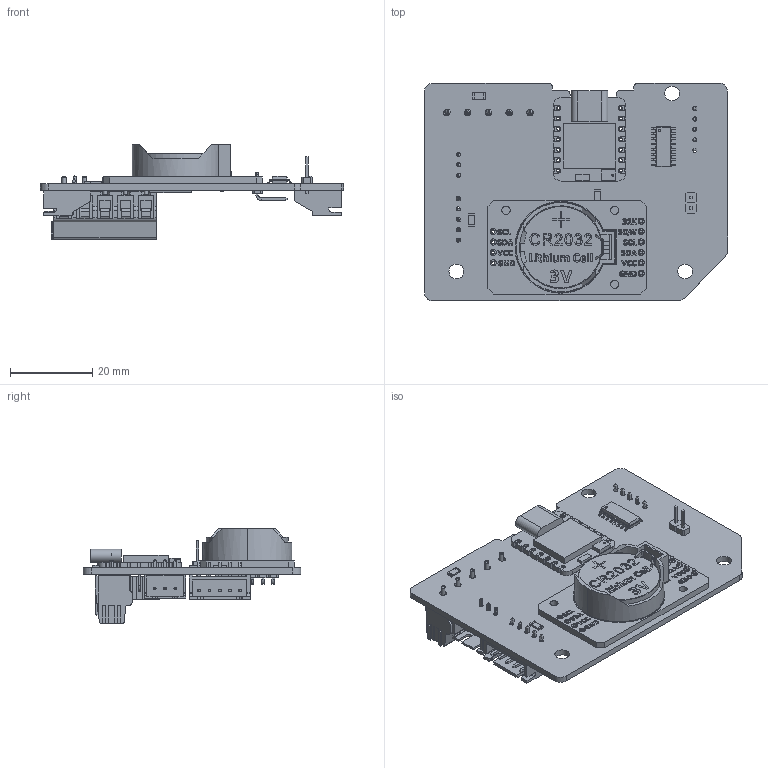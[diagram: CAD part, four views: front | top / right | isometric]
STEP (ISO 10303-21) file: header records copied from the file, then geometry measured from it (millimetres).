
FILE_DESCRIPTION(('KiCad electronic assembly'),'2;1');
FILE_NAME('TIME-BOARD.step','2026-06-01T11:04:11',('Pcbnew'),('Kicad'), 'Open CASCADE STEP processor 7.9','KiCad to STEP converter','Unknown' );
FILE_SCHEMA(('AUTOMOTIVE_DESIGN { 1 0 10303 214 1 1 1 1 }'));
Length unit declared in the file: millimetre
Products named in the file (41): TIME-BOARD 1; SOIC-16_3.9x9.9mm_P1.27mm; Resistor-1206; Ceramic; Contacts; Contacts (Mirror #1); Overcoat; PinHeader-01x02_P2.54mm_Vertical_THT; TIME-BOARD 1.3.1; TIME-BOARD 1.3.2; DS3231 RTC; Default; User Library-JST-XH-2_5mm-3; Seeed_XIAO-nRF52840_Sense; SoC_nRF_Sense; Mic_nRF_Sense; Antenna_nRF_Sense; XIAO_Generic; Board; USB; Contact; Contact Clones; Body007; Body008; Body009; Body010; Body011; Body012; Body013; Body014; Body015; Body016; Body017; Body018; Body019; JST 5 pin - S5B-XH-A-1-LF--SN---3DModel-STEP-269445; SxB-XH-Axxxxx_5; pin^SxB-XH-A-1(LF)(SN)_bent; pin^SxB-XH-A-1(LF)(SN); screw terminal - 5 pins-1935190--3DModel-STEP-510211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
Assembly tree (46 placements, depth 5):
  TIME-BOARD 1
    SOIC-16_3.9x9.9mm_P1.27mm
    Resistor-1206  x3
      Ceramic
      Contacts
      Contacts (Mirror #1)
      Overcoat
    PinHeader-01x02_P2.54mm_Vertical_THT
      TIME-BOARD 1.3.1
      TIME-BOARD 1.3.2
    DS3231 RTC
      Default
    User Library-JST-XH-2_5mm-3
    Seeed_XIAO-nRF52840_Sense
      SoC_nRF_Sense
      Mic_nRF_Sense
      Antenna_nRF_Sense
      XIAO_Generic
        Board
        USB
        Contact
        Contact Clones
          Body007
          Body008
          Body009
          Body010
          Body011
          Body012
          Body013
          Body014
          Body015
          Body016
          Body017
          Body018
          Body019
    JST 5 pin - S5B-XH-A-1-LF--SN---3DModel-STEP-269445  x2
      SxB-XH-Axxxxx_5
      pin^SxB-XH-A-1(LF)(SN)_bent
      pin^SxB-XH-A-1(LF)(SN)
    screw terminal - 5 pins-1935190--3DModel-STEP-510211
    TIME-BOARD_PCB
Bounding box: 73.84 x 53.08 x 22.94 mm (x, y, z)
Volume: 12346.8 mm3; surface area: 21406.7 mm2
Topology: 66 solids, 66 shells, 4955 faces, 12929 edges, 8298 vertices
Faces by surface type: plane 2711, extrusion 992, cylinder 967, bspline 129, torus 121, sphere 20, revolution 11, cone 4
Full cylindrical faces by diameter (mm): 0.1 x6, 0.5 x1, 0.7 x14, 0.8 x46, 0.85 x10, 1 x15, 1.2 x1, 1.202 x1, 1.5 x20, 1.6 x5, 2 x3, 2.5 x4, 3.6 x3, 18.687 x1, 20 x1
Entity records: 198492 total; most frequent: CARTESIAN_POINT 74825, ORIENTED_EDGE 24022, DIRECTION 19735, EDGE_CURVE 12011, VECTOR 8640, VERTEX_POINT 7766, LINE 7648, AXIS2_PLACEMENT_3D 5542
